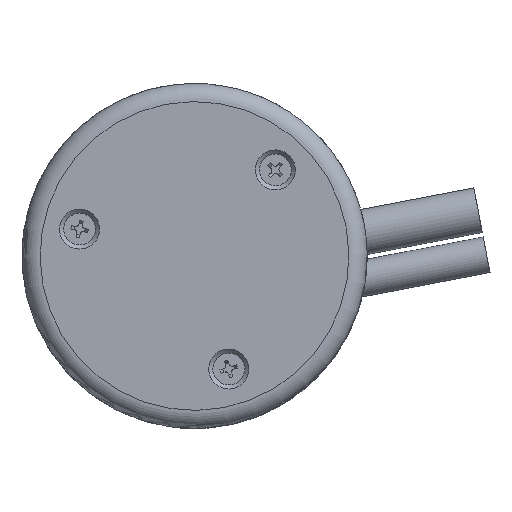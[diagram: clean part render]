
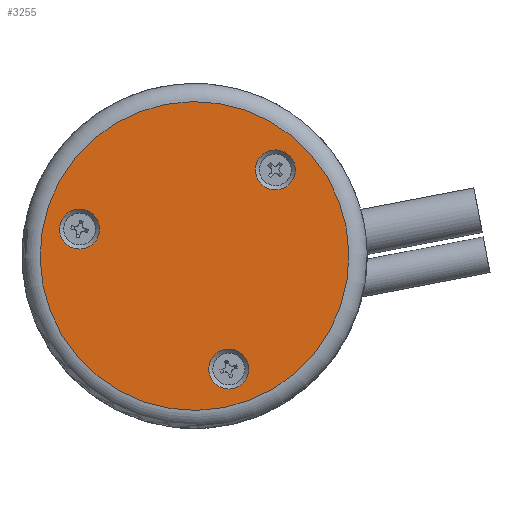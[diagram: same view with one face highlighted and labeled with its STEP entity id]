
A CAD part, front view. The second image highlights one B-rep face of the part: STEP entity #3255.
In plain terms, the highlighted planar face has unit normal (0, -1, 0).
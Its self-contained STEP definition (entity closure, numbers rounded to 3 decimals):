
#68 = DIRECTION ( 'NONE',  ( 0., -1., 0. ) ) ;
#272 = EDGE_LOOP ( 'NONE', ( #1888 ) ) ;
#298 = AXIS2_PLACEMENT_3D ( 'NONE', #1567, #3842, #1995 ) ;
#512 = AXIS2_PLACEMENT_3D ( 'NONE', #4885, #545, #3495 ) ;
#522 = EDGE_LOOP ( 'NONE', ( #2213 ) ) ;
#545 = DIRECTION ( 'NONE',  ( 0., -1., 0. ) ) ;
#558 = CARTESIAN_POINT ( 'NONE',  ( -23.958, 0., 16.494 ) ) ;
#616 = CIRCLE ( 'NONE', #512, 2.2 ) ;
#653 = VERTEX_POINT ( 'NONE', #4296 ) ;
#982 = EDGE_CURVE ( 'NONE', #1063, #1063, #616, .T. ) ;
#1063 = VERTEX_POINT ( 'NONE', #558 ) ;
#1225 = CIRCLE ( 'NONE', #1716, 2.2 ) ;
#1254 = AXIS2_PLACEMENT_3D ( 'NONE', #5648, #68, #5714 ) ;
#1375 = DIRECTION ( 'NONE',  ( 0., -1., 0. ) ) ;
#1405 = PLANE ( 'NONE',  #6051 ) ;
#1453 = EDGE_LOOP ( 'NONE', ( #4035 ) ) ;
#1555 = CARTESIAN_POINT ( 'NONE',  ( -9.736, 0., 1.057 ) ) ;
#1567 = CARTESIAN_POINT ( 'NONE',  ( -13.5, 0., 13.5 ) ) ;
#1716 = AXIS2_PLACEMENT_3D ( 'NONE', #1555, #1954, #5332 ) ;
#1873 = DIRECTION ( 'NONE',  ( 1., 0., 0.014 ) ) ;
#1888 = ORIENTED_EDGE ( 'NONE', *, *, #2050, .T. ) ;
#1954 = DIRECTION ( 'NONE',  ( 0., -1., 0. ) ) ;
#1995 = DIRECTION ( 'NONE',  ( 1., 0., 0.014 ) ) ;
#2050 = EDGE_CURVE ( 'NONE', #3541, #3541, #2474, .T. ) ;
#2137 = EDGE_LOOP ( 'NONE', ( #3386 ) ) ;
#2213 = ORIENTED_EDGE ( 'NONE', *, *, #982, .F. ) ;
#2474 = CIRCLE ( 'NONE', #298, 17. ) ;
#3172 = FACE_BOUND ( 'NONE', #522, .T. ) ;
#3207 = FACE_BOUND ( 'NONE', #1453, .T. ) ;
#3255 = ADVANCED_FACE ( 'NONE', ( #3207, #5693, #3172, #4218 ), #1405, .T. ) ;
#3386 = ORIENTED_EDGE ( 'NONE', *, *, #6110, .F. ) ;
#3495 = DIRECTION ( 'NONE',  ( 1., 0., 0.014 ) ) ;
#3541 = VERTEX_POINT ( 'NONE', #4962 ) ;
#3842 = DIRECTION ( 'NONE',  ( 0., -1., 0. ) ) ;
#3906 = CIRCLE ( 'NONE', #1254, 2.2 ) ;
#4035 = ORIENTED_EDGE ( 'NONE', *, *, #5616, .F. ) ;
#4218 = FACE_OUTER_BOUND ( 'NONE', #272, .T. ) ;
#4235 = VERTEX_POINT ( 'NONE', #5182 ) ;
#4296 = CARTESIAN_POINT ( 'NONE',  ( -2.406, 0., 23.013 ) ) ;
#4885 = CARTESIAN_POINT ( 'NONE',  ( -26.158, 0., 16.462 ) ) ;
#4962 = CARTESIAN_POINT ( 'NONE',  ( 3.498, 0., 13.746 ) ) ;
#5097 = CARTESIAN_POINT ( 'NONE',  ( -13.5, 0., 13.5 ) ) ;
#5182 = CARTESIAN_POINT ( 'NONE',  ( -7.536, 0., 1.089 ) ) ;
#5332 = DIRECTION ( 'NONE',  ( 1., 0., 0.014 ) ) ;
#5616 = EDGE_CURVE ( 'NONE', #4235, #4235, #1225, .T. ) ;
#5648 = CARTESIAN_POINT ( 'NONE',  ( -4.606, 0., 22.981 ) ) ;
#5693 = FACE_BOUND ( 'NONE', #2137, .T. ) ;
#5714 = DIRECTION ( 'NONE',  ( 1., 0., 0.014 ) ) ;
#6051 = AXIS2_PLACEMENT_3D ( 'NONE', #5097, #1375, #1873 ) ;
#6110 = EDGE_CURVE ( 'NONE', #653, #653, #3906, .T. ) ;
